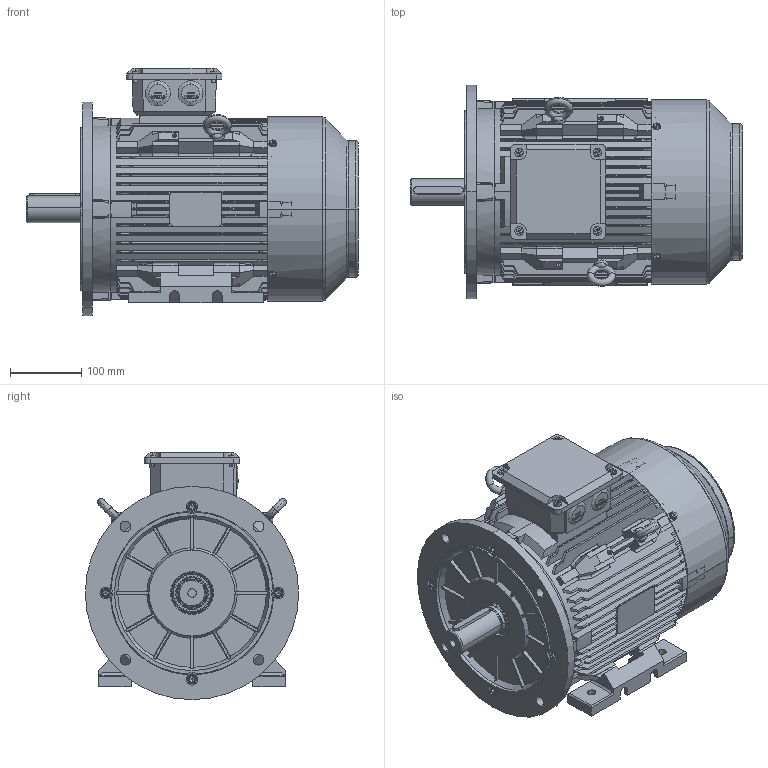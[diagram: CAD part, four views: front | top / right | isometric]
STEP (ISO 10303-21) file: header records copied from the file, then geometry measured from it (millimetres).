
FILE_DESCRIPTION (( 'STEP AP214' ), '1' );
FILE_NAME ('BCT4550.13A435.11.step', '2020-04-23T14:17:45', ( '' ), ( '' ), 'SwSTEP 2.0', 'SolidWorks 2019', '' );
FILE_SCHEMA (( 'AUTOMOTIVE_DESIGN' ));
Length unit declared in the file: millimetre
Products named in the file (1): BCT4550.13A435.11
Bounding box: 467 x 300 x 348 mm (x, y, z)
Volume: 4878725.3 mm3; surface area: 1707787 mm2
Topology: 35 solids, 35 shells, 4118 faces, 11347 edges, 7400 vertices
Faces by surface type: plane 2015, cylinder 1509, cone 336, bspline 140, torus 118
Entity records: 155211 total; most frequent: CARTESIAN_POINT 50502, ORIENTED_EDGE 22590, DIRECTION 20699, EDGE_CURVE 11295, VERTEX_POINT 7404, AXIS2_PLACEMENT_3D 7078, LINE 6543, VECTOR 6543
